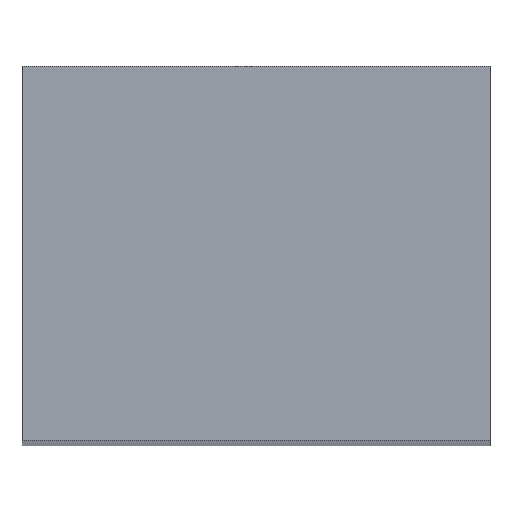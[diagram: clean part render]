
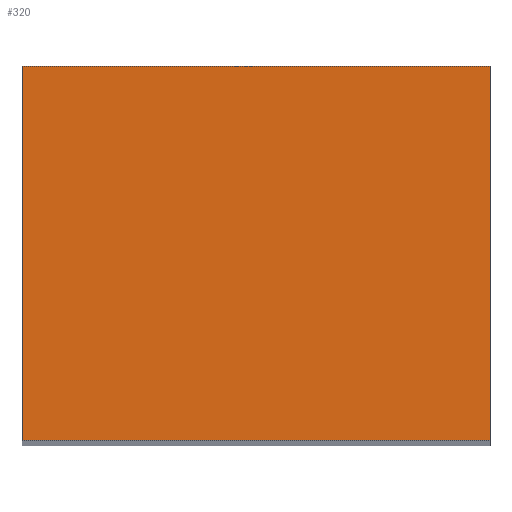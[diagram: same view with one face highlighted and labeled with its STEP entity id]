
A CAD part, top view. The second image highlights one B-rep face of the part: STEP entity #320.
In plain terms, the highlighted planar face has unit normal (0, 0, 1).
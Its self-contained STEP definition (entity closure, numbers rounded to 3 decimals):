
#20 = CARTESIAN_POINT ( 'NONE',  ( -7.5, 6., 100. ) ) ;
#42 = CARTESIAN_POINT ( 'NONE',  ( -7.5, 6., 100. ) ) ;
#62 = DIRECTION ( 'NONE',  ( 1., 0., 0. ) ) ;
#65 = LINE ( 'NONE', #158, #298 ) ;
#66 = ORIENTED_EDGE ( 'NONE', *, *, #177, .T. ) ;
#69 = CARTESIAN_POINT ( 'NONE',  ( 0., 0., 100. ) ) ;
#86 = LINE ( 'NONE', #20, #283 ) ;
#92 = CARTESIAN_POINT ( 'NONE',  ( 7.5, 6., 100. ) ) ;
#98 = DIRECTION ( 'NONE',  ( 0., 0., 1. ) ) ;
#107 = ORIENTED_EDGE ( 'NONE', *, *, #198, .T. ) ;
#113 = DIRECTION ( 'NONE',  ( 0., -1., 0. ) ) ;
#125 = CARTESIAN_POINT ( 'NONE',  ( -7.5, -6., 100. ) ) ;
#135 = VERTEX_POINT ( 'NONE', #246 ) ;
#145 = AXIS2_PLACEMENT_3D ( 'NONE', #69, #98, #62 ) ;
#150 = LINE ( 'NONE', #182, #165 ) ;
#155 = EDGE_CURVE ( 'NONE', #396, #273, #86, .T. ) ;
#158 = CARTESIAN_POINT ( 'NONE',  ( -7.5, -6., 100. ) ) ;
#160 = LINE ( 'NONE', #92, #423 ) ;
#165 = VECTOR ( 'NONE', #316, 1000. ) ;
#177 = EDGE_CURVE ( 'NONE', #135, #396, #150, .T. ) ;
#182 = CARTESIAN_POINT ( 'NONE',  ( -7.5, 6., 100. ) ) ;
#198 = EDGE_CURVE ( 'NONE', #430, #135, #160, .T. ) ;
#211 = ORIENTED_EDGE ( 'NONE', *, *, #219, .T. ) ;
#219 = EDGE_CURVE ( 'NONE', #273, #430, #65, .T. ) ;
#246 = CARTESIAN_POINT ( 'NONE',  ( 7.5, 6., 100. ) ) ;
#257 = PLANE ( 'NONE',  #145 ) ;
#259 = FACE_OUTER_BOUND ( 'NONE', #365, .T. ) ;
#273 = VERTEX_POINT ( 'NONE', #125 ) ;
#283 = VECTOR ( 'NONE', #113, 1000. ) ;
#298 = VECTOR ( 'NONE', #435, 1000. ) ;
#300 = CARTESIAN_POINT ( 'NONE',  ( 7.5, -6., 100. ) ) ;
#316 = DIRECTION ( 'NONE',  ( -1., 0., 0. ) ) ;
#320 = ADVANCED_FACE ( 'NONE', ( #259 ), #257, .T. ) ;
#358 = ORIENTED_EDGE ( 'NONE', *, *, #155, .T. ) ;
#365 = EDGE_LOOP ( 'NONE', ( #107, #66, #358, #211 ) ) ;
#396 = VERTEX_POINT ( 'NONE', #42 ) ;
#423 = VECTOR ( 'NONE', #432, 1000. ) ;
#430 = VERTEX_POINT ( 'NONE', #300 ) ;
#432 = DIRECTION ( 'NONE',  ( 0., 1., 0. ) ) ;
#435 = DIRECTION ( 'NONE',  ( 1., 0., 0. ) ) ;
